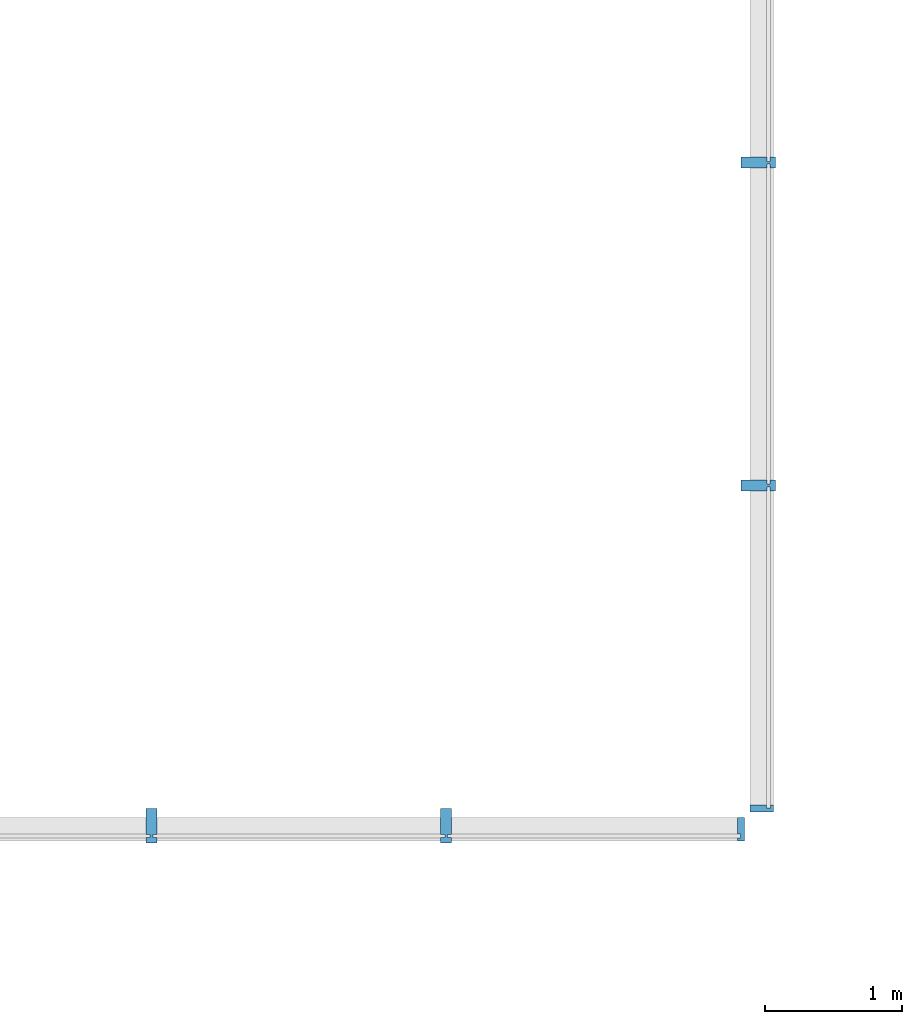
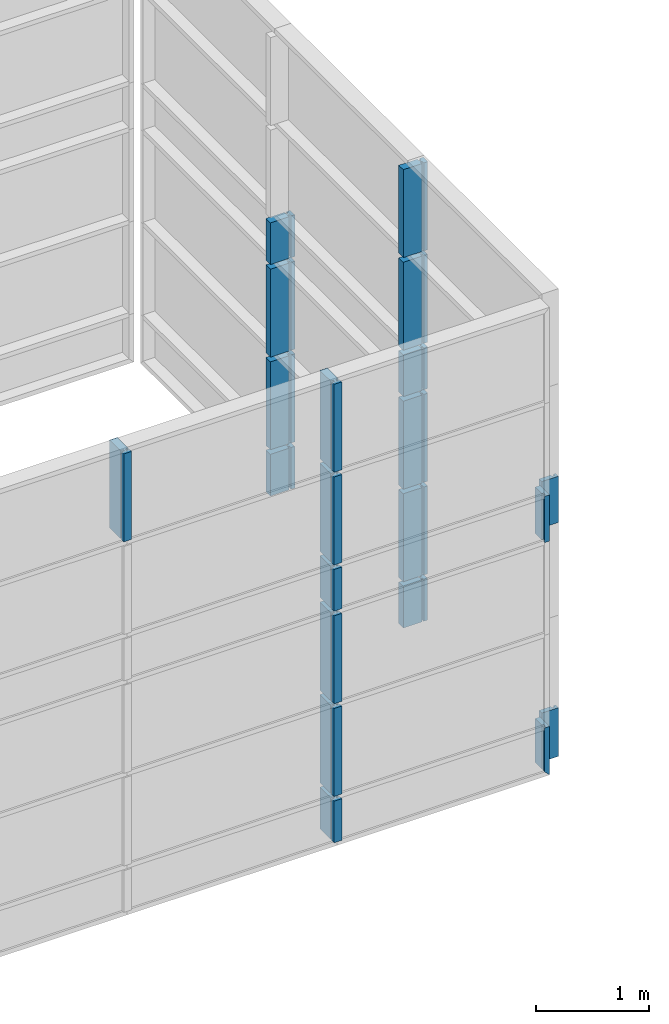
# One storey, part 14 of 19: 21 building element parts, 2 elements without a shape of their own.
"""IFC4 building model written with IfcOpenShell, lengths in millimetres."""

from ifc_helpers import new_model, entity, si_unit, converted_unit, derived_unit, direction, frame, origin_with_axes, place, context, subcontext, project, spatial, triangles, material, element, aggregate, save


model = new_model("IFC4")

# Units and contexts
model_context = context("Model", 3, precision=1e-05, world=origin_with_axes(), true_north=direction((0.0, 1.0)))
body_context = subcontext(model_context, "Body", "Model", "MODEL_VIEW")
ifc_project = project(units=[si_unit("LENGTHUNIT", "METRE", prefix="MILLI"), si_unit("AREAUNIT", "SQUARE_METRE"), si_unit("VOLUMEUNIT", "CUBIC_METRE"), converted_unit("PLANEANGLEUNIT", "DEGREE", entity("IfcLengthMeasure", 0.017453), si_unit("PLANEANGLEUNIT", "RADIAN"), dimensions=[0, 0, 0, 0, 0, 0, 0]), si_unit("SOLIDANGLEUNIT", "STERADIAN"), si_unit("MASSUNIT", "GRAM"), si_unit("TIMEUNIT", "SECOND"), si_unit("THERMODYNAMICTEMPERATUREUNIT", "DEGREE_CELSIUS"), si_unit("LUMINOUSINTENSITYUNIT", "LUMEN"), si_unit("POWERUNIT", "WATT"), derived_unit("THERMALTRANSMITTANCEUNIT", [(si_unit("POWERUNIT", "WATT"), 1), (si_unit("THERMODYNAMICTEMPERATUREUNIT", "KELVIN"), -1), (si_unit("AREAUNIT", "SQUARE_METRE"), -1)])], contexts=[model_context])

# Site, building, storey
site_placement = place(None, origin_with_axes())
site = spatial("IfcSite", under=ifc_project, at=site_placement, Name="Default Site", CompositionType="ELEMENT")
building_placement = place(site_placement, origin_with_axes())
building = spatial("IfcBuilding", under=site, at=building_placement, Name="Default Building", CompositionType="ELEMENT")
storey_placement = place(building_placement, frame((0.0, 0.0, 3000.0), z_axis=(0.0, 0.0, 1.0), x_axis=(1.0, 0.0, 0.0)))
storey = spatial("IfcBuildingStorey", under=building, at=storey_placement, Name="EG - Story", CompositionType="ELEMENT", Elevation=3000.0)

# Curtain wall, building element parts
curtain_wall_1_placement = place(storey_placement, origin_with_axes())
curtain_wall_1 = element("IfcCurtainWall", 1, at=curtain_wall_1_placement, inside=storey, Name="Fassade-008", PredefinedType="NOTDEFINED")
ifc_material = material(Name="Blech")
building_element_part_1_placement = place(curtain_wall_1_placement, frame((76219.438321, -43896.324358, 0.0), z_axis=(0.0, 0.0, 1.0), x_axis=(1.0, 0.0, 0.0)))
building_element_part_1 = element("IfcBuildingElementPart", 2, at=building_element_part_1_placement, material=ifc_material, Name="Blech", PredefinedType="NOTDEFINED", context=body_context, shape_type="Tessellation", body=[
    triangles([(50.0, -1215.324, 475.0), (10.0, -1215.324, 475.0), (50.0, -1135.324, 475.0), (10.0, -1185.324, 475.0), (10.0, -1165.324, 475.0), (-9.999, -1185.324, 475.0), (-9.999, -1165.324, 475.0), (-9.999, -1135.324, 475.0), (-9.999, -1215.324, 475.0), (-199.999, -1215.324, 475.0), (-199.999, -1135.324, 475.0), (10.0, -1135.324, 475.0), (-9.999, -1185.324, 25.0), (10.0, -1185.324, 25.0), (10.0, -1215.324, 25.0), (50.0, -1215.324, 25.0), (50.0, -1135.324, 25.0), (10.0, -1135.324, 25.0), (10.0, -1165.324, 25.0), (-9.999, -1165.324, 25.0), (-9.999, -1135.324, 25.0), (-199.999, -1135.324, 25.0), (-199.999, -1215.324, 25.0), (-9.999, -1215.324, 25.0)], [[1, 2, 3], [3, 2, 4], [3, 4, 5], [5, 4, 6], [5, 6, 7], [8, 9, 10], [8, 10, 11], [3, 5, 12], [6, 13, 14], [6, 14, 4], [4, 14, 15], [4, 15, 2], [15, 16, 1], [15, 1, 2], [3, 1, 16], [3, 16, 17], [18, 12, 3], [18, 3, 17], [12, 18, 19], [12, 19, 5], [7, 5, 19], [7, 19, 20], [8, 7, 20], [8, 20, 21], [8, 21, 22], [8, 22, 11], [10, 11, 22], [10, 22, 23], [9, 10, 23], [9, 23, 24], [9, 24, 13], [9, 13, 6], [17, 18, 16], [16, 18, 19], [16, 19, 14], [14, 19, 20], [14, 20, 13], [24, 21, 22], [24, 22, 23], [16, 14, 15]], closed=False),
])
building_element_part_2_placement = place(curtain_wall_1_placement, frame((76219.438321, -43896.324358, 0.0), z_axis=(0.0, 0.0, 1.0), x_axis=(1.0, 0.0, 0.0)))
building_element_part_2 = element("IfcBuildingElementPart", 3, at=building_element_part_2_placement, material=ifc_material, Name="Blech", PredefinedType="NOTDEFINED", context=body_context, shape_type="Tessellation", body=[
    triangles([(35.0, -5901.623, 500.0), (35.0, -5851.623, 500.0), (15.0, -5851.623, 500.0), (15.0, -5871.623, 500.0), (-14.999, -5871.623, 500.0), (-132.999, -5851.623, 500.0), (-132.999, -5901.623, 500.0), (-14.999, -5851.623, 500.0), (-14.999, -5871.623, 5.0), (-14.999, -5851.623, 25.0), (-132.999, -5851.623, 25.0), (-132.999, -5901.623, -24.999), (35.0, -5901.623, -24.999), (35.0, -5851.623, 25.0), (15.0, -5851.623, 25.0), (15.0, -5871.623, 5.0)], [[1, 2, 3], [1, 3, 4], [1, 4, 5], [1, 5, 6], [1, 6, 7], [8, 6, 5], [5, 9, 10], [5, 10, 8], [10, 11, 6], [10, 6, 8], [6, 11, 12], [6, 12, 7], [7, 12, 13], [7, 13, 1], [1, 13, 14], [1, 14, 2], [3, 2, 14], [3, 14, 15], [15, 16, 4], [15, 4, 3], [4, 16, 9], [4, 9, 5], [16, 9, 12], [16, 12, 13], [16, 13, 14], [16, 14, 15], [11, 12, 9], [11, 9, 10]], closed=False),
])
building_element_part_3_placement = place(curtain_wall_1_placement, frame((76219.438321, -43896.324358, 0.0), z_axis=(0.0, 0.0, 1.0), x_axis=(1.0, 0.0, 0.0)))
building_element_part_3 = element("IfcBuildingElementPart", 4, at=building_element_part_3_placement, material=ifc_material, Name="Blech", PredefinedType="NOTDEFINED", context=body_context, shape_type="Tessellation", body=[
    triangles([(50.0, -3565.973, 475.0), (10.0, -3565.973, 475.0), (50.0, -3485.973, 475.0), (10.0, -3535.973, 475.0), (10.0, -3515.973, 475.0), (-9.999, -3535.973, 475.0), (-9.999, -3515.973, 475.0), (-9.999, -3485.973, 475.0), (-9.999, -3565.973, 475.0), (-199.999, -3565.973, 475.0), (-199.999, -3485.973, 475.0), (10.0, -3485.973, 475.0), (-9.999, -3535.973, 25.0), (10.0, -3535.973, 25.0), (10.0, -3565.973, 25.0), (50.0, -3565.973, 25.0), (50.0, -3485.973, 25.0), (10.0, -3485.973, 25.0), (10.0, -3515.973, 25.0), (-9.999, -3515.973, 25.0), (-9.999, -3485.973, 25.0), (-199.999, -3485.973, 25.0), (-199.999, -3565.973, 25.0), (-9.999, -3565.973, 25.0)], [[1, 2, 3], [3, 2, 4], [3, 4, 5], [5, 4, 6], [5, 6, 7], [8, 9, 10], [8, 10, 11], [3, 5, 12], [6, 13, 14], [6, 14, 4], [4, 14, 15], [4, 15, 2], [15, 16, 1], [15, 1, 2], [3, 1, 16], [3, 16, 17], [18, 12, 3], [18, 3, 17], [12, 18, 19], [12, 19, 5], [7, 5, 19], [7, 19, 20], [8, 7, 20], [8, 20, 21], [8, 21, 22], [8, 22, 11], [10, 11, 22], [10, 22, 23], [9, 10, 23], [9, 23, 24], [9, 24, 13], [9, 13, 6], [17, 18, 16], [16, 18, 19], [16, 19, 14], [14, 19, 20], [14, 20, 13], [24, 21, 22], [24, 22, 23], [16, 14, 15]], closed=False),
])
building_element_part_4_placement = place(curtain_wall_1_placement, frame((76219.438321, -43896.324358, 0.0), z_axis=(0.0, 0.0, 1.0), x_axis=(1.0, 0.0, 0.0)))
building_element_part_4 = element("IfcBuildingElementPart", 5, at=building_element_part_4_placement, material=ifc_material, Name="Blech", PredefinedType="NOTDEFINED", context=body_context, shape_type="Tessellation", body=[
    triangles([(50.0, -1215.324, 1475.0), (10.0, -1215.324, 1475.0), (50.0, -1135.324, 1475.0), (10.0, -1185.324, 1475.0), (10.0, -1165.324, 1475.0), (-9.999, -1185.324, 1475.0), (-9.999, -1165.324, 1475.0), (-9.999, -1135.324, 1475.0), (-9.999, -1215.324, 1475.0), (-199.999, -1215.324, 1475.0), (-199.999, -1135.324, 1475.0), (10.0, -1135.324, 1475.0), (-9.999, -1185.324, 525.0), (10.0, -1185.324, 525.0), (10.0, -1215.324, 525.0), (50.0, -1215.324, 525.0), (50.0, -1135.324, 525.0), (10.0, -1135.324, 525.0), (10.0, -1165.324, 525.0), (-9.999, -1165.324, 525.0), (-9.999, -1135.324, 525.0), (-199.999, -1135.324, 525.0), (-199.999, -1215.324, 525.0), (-9.999, -1215.324, 525.0)], [[1, 2, 3], [3, 2, 4], [3, 4, 5], [5, 4, 6], [5, 6, 7], [8, 9, 10], [8, 10, 11], [3, 5, 12], [6, 13, 14], [6, 14, 4], [4, 14, 15], [4, 15, 2], [15, 16, 1], [15, 1, 2], [3, 1, 16], [3, 16, 17], [18, 12, 3], [18, 3, 17], [12, 18, 19], [12, 19, 5], [7, 5, 19], [7, 19, 20], [8, 7, 20], [8, 20, 21], [8, 21, 22], [8, 22, 11], [10, 11, 22], [10, 22, 23], [9, 10, 23], [9, 23, 24], [9, 24, 13], [9, 13, 6], [17, 18, 16], [16, 18, 19], [16, 19, 14], [14, 19, 20], [14, 20, 13], [24, 21, 22], [24, 22, 23], [16, 14, 15]], closed=False),
])
building_element_part_5_placement = place(curtain_wall_1_placement, frame((76219.438321, -43896.324358, 0.0), z_axis=(0.0, 0.0, 1.0), x_axis=(1.0, 0.0, 0.0)))
building_element_part_5 = element("IfcBuildingElementPart", 6, at=building_element_part_5_placement, material=ifc_material, Name="Blech", PredefinedType="NOTDEFINED", context=body_context, shape_type="Tessellation", body=[
    triangles([(50.0, -3565.973, 1475.0), (10.0, -3565.973, 1475.0), (50.0, -3485.973, 1475.0), (10.0, -3535.973, 1475.0), (10.0, -3515.973, 1475.0), (-9.999, -3535.973, 1475.0), (-9.999, -3515.973, 1475.0), (-9.999, -3485.973, 1475.0), (-9.999, -3565.973, 1475.0), (-199.999, -3565.973, 1475.0), (-199.999, -3485.973, 1475.0), (10.0, -3485.973, 1475.0), (-9.999, -3535.973, 525.0), (10.0, -3535.973, 525.0), (10.0, -3565.973, 525.0), (50.0, -3565.973, 525.0), (50.0, -3485.973, 525.0), (10.0, -3485.973, 525.0), (10.0, -3515.973, 525.0), (-9.999, -3515.973, 525.0), (-9.999, -3485.973, 525.0), (-199.999, -3485.973, 525.0), (-199.999, -3565.973, 525.0), (-9.999, -3565.973, 525.0)], [[1, 2, 3], [3, 2, 4], [3, 4, 5], [5, 4, 6], [5, 6, 7], [8, 9, 10], [8, 10, 11], [3, 5, 12], [6, 13, 14], [6, 14, 4], [4, 14, 15], [4, 15, 2], [15, 16, 1], [15, 1, 2], [3, 1, 16], [3, 16, 17], [18, 12, 3], [18, 3, 17], [12, 18, 19], [12, 19, 5], [7, 5, 19], [7, 19, 20], [8, 7, 20], [8, 20, 21], [8, 21, 22], [8, 22, 11], [10, 11, 22], [10, 22, 23], [9, 10, 23], [9, 23, 24], [9, 24, 13], [9, 13, 6], [17, 18, 16], [16, 18, 19], [16, 19, 14], [14, 19, 20], [14, 20, 13], [24, 21, 22], [24, 22, 23], [16, 14, 15]], closed=False),
])
building_element_part_6_placement = place(curtain_wall_1_placement, frame((76219.438321, -43896.324358, 0.0), z_axis=(0.0, 0.0, 1.0), x_axis=(1.0, 0.0, 0.0)))
building_element_part_6 = element("IfcBuildingElementPart", 7, at=building_element_part_6_placement, material=ifc_material, Name="Blech", PredefinedType="NOTDEFINED", context=body_context, shape_type="Tessellation", body=[
    triangles([(50.0, -1215.324, 2475.0), (10.0, -1215.324, 2475.0), (50.0, -1135.324, 2475.0), (10.0, -1185.324, 2475.0), (10.0, -1165.324, 2475.0), (-9.999, -1185.324, 2475.0), (-9.999, -1165.324, 2475.0), (-9.999, -1135.324, 2475.0), (-9.999, -1215.324, 2475.0), (-199.999, -1215.324, 2475.0), (-199.999, -1135.324, 2475.0), (10.0, -1135.324, 2475.0), (-9.999, -1185.324, 1525.0), (10.0, -1185.324, 1525.0), (10.0, -1215.324, 1525.0), (50.0, -1215.324, 1525.0), (50.0, -1135.324, 1525.0), (10.0, -1135.324, 1525.0), (10.0, -1165.324, 1525.0), (-9.999, -1165.324, 1525.0), (-9.999, -1135.324, 1525.0), (-199.999, -1135.324, 1525.0), (-199.999, -1215.324, 1525.0), (-9.999, -1215.324, 1525.0)], [[1, 2, 3], [3, 2, 4], [3, 4, 5], [5, 4, 6], [5, 6, 7], [8, 9, 10], [8, 10, 11], [3, 5, 12], [6, 13, 14], [6, 14, 4], [4, 14, 15], [4, 15, 2], [15, 16, 1], [15, 1, 2], [3, 1, 16], [3, 16, 17], [18, 12, 3], [18, 3, 17], [12, 18, 19], [12, 19, 5], [7, 5, 19], [7, 19, 20], [8, 7, 20], [8, 20, 21], [8, 21, 22], [8, 22, 11], [10, 11, 22], [10, 22, 23], [9, 10, 23], [9, 23, 24], [9, 24, 13], [9, 13, 6], [17, 18, 16], [16, 18, 19], [16, 19, 14], [14, 19, 20], [14, 20, 13], [24, 21, 22], [24, 22, 23], [16, 14, 15]], closed=False),
])
building_element_part_7_placement = place(curtain_wall_1_placement, frame((76219.438321, -43896.324358, 0.0), z_axis=(0.0, 0.0, 1.0), x_axis=(1.0, 0.0, 0.0)))
building_element_part_7 = element("IfcBuildingElementPart", 8, at=building_element_part_7_placement, material=ifc_material, Name="Blech", PredefinedType="NOTDEFINED", context=body_context, shape_type="Tessellation", body=[
    triangles([(50.0, -3565.973, 2475.0), (10.0, -3565.973, 2475.0), (50.0, -3485.973, 2475.0), (10.0, -3535.973, 2475.0), (10.0, -3515.973, 2475.0), (-9.999, -3535.973, 2475.0), (-9.999, -3515.973, 2475.0), (-9.999, -3485.973, 2475.0), (-9.999, -3565.973, 2475.0), (-199.999, -3565.973, 2475.0), (-199.999, -3485.973, 2475.0), (10.0, -3485.973, 2475.0), (-9.999, -3535.973, 1525.0), (10.0, -3535.973, 1525.0), (10.0, -3565.973, 1525.0), (50.0, -3565.973, 1525.0), (50.0, -3485.973, 1525.0), (10.0, -3485.973, 1525.0), (10.0, -3515.973, 1525.0), (-9.999, -3515.973, 1525.0), (-9.999, -3485.973, 1525.0), (-199.999, -3485.973, 1525.0), (-199.999, -3565.973, 1525.0), (-9.999, -3565.973, 1525.0)], [[1, 2, 3], [3, 2, 4], [3, 4, 5], [5, 4, 6], [5, 6, 7], [8, 9, 10], [8, 10, 11], [3, 5, 12], [6, 13, 14], [6, 14, 4], [4, 14, 15], [4, 15, 2], [15, 16, 1], [15, 1, 2], [3, 1, 16], [3, 16, 17], [18, 12, 3], [18, 3, 17], [12, 18, 19], [12, 19, 5], [7, 5, 19], [7, 19, 20], [8, 7, 20], [8, 20, 21], [8, 21, 22], [8, 22, 11], [10, 11, 22], [10, 22, 23], [9, 10, 23], [9, 23, 24], [9, 24, 13], [9, 13, 6], [17, 18, 16], [16, 18, 19], [16, 19, 14], [14, 19, 20], [14, 20, 13], [24, 21, 22], [24, 22, 23], [16, 14, 15]], closed=False),
])
building_element_part_8_placement = place(curtain_wall_1_placement, frame((76219.438321, -43896.324358, 0.0), z_axis=(0.0, 0.0, 1.0), x_axis=(1.0, 0.0, 0.0)))
building_element_part_8 = element("IfcBuildingElementPart", 9, at=building_element_part_8_placement, material=ifc_material, Name="Blech", PredefinedType="NOTDEFINED", context=body_context, shape_type="Tessellation", body=[
    triangles([(50.0, -1215.324, 2975.0), (10.0, -1215.324, 2975.0), (50.0, -1135.324, 2975.0), (10.0, -1185.324, 2975.0), (10.0, -1165.324, 2975.0), (-9.999, -1185.324, 2975.0), (-9.999, -1165.324, 2975.0), (-9.999, -1135.324, 2975.0), (-9.999, -1215.324, 2975.0), (-199.999, -1215.324, 2975.0), (-199.999, -1135.324, 2975.0), (10.0, -1135.324, 2975.0), (-9.999, -1185.324, 2525.0), (10.0, -1185.324, 2525.0), (10.0, -1215.324, 2525.0), (50.0, -1215.324, 2525.0), (50.0, -1135.324, 2525.0), (10.0, -1135.324, 2525.0), (10.0, -1165.324, 2525.0), (-9.999, -1165.324, 2525.0), (-9.999, -1135.324, 2525.0), (-199.999, -1135.324, 2525.0), (-199.999, -1215.324, 2525.0), (-9.999, -1215.324, 2525.0)], [[1, 2, 3], [3, 2, 4], [3, 4, 5], [5, 4, 6], [5, 6, 7], [8, 9, 10], [8, 10, 11], [3, 5, 12], [6, 13, 14], [6, 14, 4], [4, 14, 15], [4, 15, 2], [15, 16, 1], [15, 1, 2], [3, 1, 16], [3, 16, 17], [18, 12, 3], [18, 3, 17], [12, 18, 19], [12, 19, 5], [7, 5, 19], [7, 19, 20], [8, 7, 20], [8, 20, 21], [8, 21, 22], [8, 22, 11], [10, 11, 22], [10, 22, 23], [9, 10, 23], [9, 23, 24], [9, 24, 13], [9, 13, 6], [17, 18, 16], [16, 18, 19], [16, 19, 14], [14, 19, 20], [14, 20, 13], [24, 21, 22], [24, 22, 23], [16, 14, 15]], closed=False),
])
building_element_part_9_placement = place(curtain_wall_1_placement, frame((76219.438321, -43896.324358, 0.0), z_axis=(0.0, 0.0, 1.0), x_axis=(1.0, 0.0, 0.0)))
building_element_part_9 = element("IfcBuildingElementPart", 10, at=building_element_part_9_placement, material=ifc_material, Name="Blech", PredefinedType="NOTDEFINED", context=body_context, shape_type="Tessellation", body=[
    triangles([(50.0, -3565.973, 2975.0), (10.0, -3565.973, 2975.0), (50.0, -3485.973, 2975.0), (10.0, -3535.973, 2975.0), (10.0, -3515.973, 2975.0), (-9.999, -3535.973, 2975.0), (-9.999, -3515.973, 2975.0), (-9.999, -3485.973, 2975.0), (-9.999, -3565.973, 2975.0), (-199.999, -3565.973, 2975.0), (-199.999, -3485.973, 2975.0), (10.0, -3485.973, 2975.0), (-9.999, -3535.973, 2525.0), (10.0, -3535.973, 2525.0), (10.0, -3565.973, 2525.0), (50.0, -3565.973, 2525.0), (50.0, -3485.973, 2525.0), (10.0, -3485.973, 2525.0), (10.0, -3515.973, 2525.0), (-9.999, -3515.973, 2525.0), (-9.999, -3485.973, 2525.0), (-199.999, -3485.973, 2525.0), (-199.999, -3565.973, 2525.0), (-9.999, -3565.973, 2525.0)], [[1, 2, 3], [3, 2, 4], [3, 4, 5], [5, 4, 6], [5, 6, 7], [8, 9, 10], [8, 10, 11], [3, 5, 12], [6, 13, 14], [6, 14, 4], [4, 14, 15], [4, 15, 2], [15, 16, 1], [15, 1, 2], [3, 1, 16], [3, 16, 17], [18, 12, 3], [18, 3, 17], [12, 18, 19], [12, 19, 5], [7, 5, 19], [7, 19, 20], [8, 7, 20], [8, 20, 21], [8, 21, 22], [8, 22, 11], [10, 11, 22], [10, 22, 23], [9, 10, 23], [9, 23, 24], [9, 24, 13], [9, 13, 6], [17, 18, 16], [16, 18, 19], [16, 19, 14], [14, 19, 20], [14, 20, 13], [24, 21, 22], [24, 22, 23], [16, 14, 15]], closed=False),
])
building_element_part_10_placement = place(curtain_wall_1_placement, frame((76219.438321, -43896.324358, 0.0), z_axis=(0.0, 0.0, 1.0), x_axis=(1.0, 0.0, 0.0)))
building_element_part_10 = element("IfcBuildingElementPart", 11, at=building_element_part_10_placement, material=ifc_material, Name="Blech", PredefinedType="NOTDEFINED", context=body_context, shape_type="Tessellation", body=[
    triangles([(50.0, -3565.973, 3975.0), (10.0, -3565.973, 3975.0), (50.0, -3485.973, 3975.0), (10.0, -3535.973, 3975.0), (10.0, -3515.973, 3975.0), (-9.999, -3535.973, 3975.0), (-9.999, -3515.973, 3975.0), (-9.999, -3485.973, 3975.0), (-9.999, -3565.973, 3975.0), (-199.999, -3565.973, 3975.0), (-199.999, -3485.973, 3975.0), (10.0, -3485.973, 3975.0), (-9.999, -3535.973, 3025.0), (10.0, -3535.973, 3025.0), (10.0, -3565.973, 3025.0), (50.0, -3565.973, 3025.0), (50.0, -3485.973, 3025.0), (10.0, -3485.973, 3025.0), (10.0, -3515.973, 3025.0), (-9.999, -3515.973, 3025.0), (-9.999, -3485.973, 3025.0), (-199.999, -3485.973, 3025.0), (-199.999, -3565.973, 3025.0), (-9.999, -3565.973, 3025.0)], [[1, 2, 3], [3, 2, 4], [3, 4, 5], [5, 4, 6], [5, 6, 7], [8, 9, 10], [8, 10, 11], [3, 5, 12], [6, 13, 14], [6, 14, 4], [4, 14, 15], [4, 15, 2], [15, 16, 1], [15, 1, 2], [3, 1, 16], [3, 16, 17], [18, 12, 3], [18, 3, 17], [12, 18, 19], [12, 19, 5], [7, 5, 19], [7, 19, 20], [8, 7, 20], [8, 20, 21], [8, 21, 22], [8, 22, 11], [10, 11, 22], [10, 22, 23], [9, 10, 23], [9, 23, 24], [9, 24, 13], [9, 13, 6], [17, 18, 16], [16, 18, 19], [16, 19, 14], [14, 19, 20], [14, 20, 13], [24, 21, 22], [24, 22, 23], [16, 14, 15]], closed=False),
])
building_element_part_11_placement = place(curtain_wall_1_placement, frame((76219.438321, -43896.324358, 0.0), z_axis=(0.0, 0.0, 1.0), x_axis=(1.0, 0.0, 0.0)))
building_element_part_11 = element("IfcBuildingElementPart", 12, at=building_element_part_11_placement, material=ifc_material, Name="Blech", PredefinedType="NOTDEFINED", context=body_context, shape_type="Tessellation", body=[
    triangles([(50.0, -3565.973, 4975.0), (10.0, -3565.973, 4975.0), (50.0, -3485.973, 4975.0), (10.0, -3535.973, 4975.0), (10.0, -3515.973, 4975.0), (-9.999, -3535.973, 4975.0), (-9.999, -3515.973, 4975.0), (-9.999, -3485.973, 4975.0), (-9.999, -3565.973, 4975.0), (-199.999, -3565.973, 4975.0), (-199.999, -3485.973, 4975.0), (10.0, -3485.973, 4975.0), (-9.999, -3535.973, 4025.0), (10.0, -3535.973, 4025.0), (10.0, -3565.973, 4025.0), (50.0, -3565.973, 4025.0), (50.0, -3485.973, 4025.0), (10.0, -3485.973, 4025.0), (10.0, -3515.973, 4025.0), (-9.999, -3515.973, 4025.0), (-9.999, -3485.973, 4025.0), (-199.999, -3485.973, 4025.0), (-199.999, -3565.973, 4025.0), (-9.999, -3565.973, 4025.0)], [[1, 2, 3], [3, 2, 4], [3, 4, 5], [5, 4, 6], [5, 6, 7], [8, 9, 10], [8, 10, 11], [3, 5, 12], [6, 13, 14], [6, 14, 4], [4, 14, 15], [4, 15, 2], [15, 16, 1], [15, 1, 2], [3, 1, 16], [3, 16, 17], [18, 12, 3], [18, 3, 17], [12, 18, 19], [12, 19, 5], [7, 5, 19], [7, 19, 20], [8, 7, 20], [8, 20, 21], [8, 21, 22], [8, 22, 11], [10, 11, 22], [10, 22, 23], [9, 10, 23], [9, 23, 24], [9, 24, 13], [9, 13, 6], [17, 18, 16], [16, 18, 19], [16, 19, 14], [14, 19, 20], [14, 20, 13], [24, 21, 22], [24, 22, 23], [16, 14, 15]], closed=False),
])
building_element_part_12_placement = place(curtain_wall_1_placement, frame((76219.438321, -43896.324358, 0.0), z_axis=(0.0, 0.0, 1.0), x_axis=(1.0, 0.0, 0.0)))
building_element_part_12 = element("IfcBuildingElementPart", 13, at=building_element_part_12_placement, material=ifc_material, Name="Blech", PredefinedType="NOTDEFINED", context=body_context, shape_type="Tessellation", body=[
    triangles([(35.0, -5901.623, 3000.0), (35.0, -5851.623, 3000.0), (15.0, -5851.623, 3000.0), (15.0, -5871.623, 3000.0), (-14.999, -5871.623, 3000.0), (-132.999, -5851.623, 3000.0), (-132.999, -5901.623, 3000.0), (-14.999, -5851.623, 3000.0), (-14.999, -5871.623, 2500.0), (-14.999, -5851.623, 2500.0), (-132.999, -5851.623, 2500.0), (-132.999, -5901.623, 2500.0), (35.0, -5901.623, 2500.0), (35.0, -5851.623, 2500.0), (15.0, -5851.623, 2500.0), (15.0, -5871.623, 2500.0)], [[1, 2, 3], [1, 3, 4], [1, 4, 5], [1, 5, 6], [1, 6, 7], [8, 6, 5], [5, 9, 10], [5, 10, 8], [10, 11, 6], [10, 6, 8], [11, 12, 7], [11, 7, 6], [12, 13, 1], [12, 1, 7], [13, 14, 2], [13, 2, 1], [3, 2, 14], [3, 14, 15], [15, 16, 4], [15, 4, 3], [4, 16, 9], [4, 9, 5], [15, 16, 13], [13, 16, 9], [13, 9, 11], [11, 9, 10], [13, 11, 12], [15, 13, 14]], closed=False),
])
aggregate(curtain_wall_1, [building_element_part_1, building_element_part_2, building_element_part_3, building_element_part_4, building_element_part_5, building_element_part_6, building_element_part_7, building_element_part_8, building_element_part_9, building_element_part_10, building_element_part_11, building_element_part_12])

curtain_wall_2_placement = place(storey_placement, origin_with_axes())
curtain_wall_2 = element("IfcCurtainWall", 14, at=curtain_wall_2_placement, inside=storey, Name="Fassade-010", PredefinedType="NOTDEFINED")
building_element_part_13_placement = place(curtain_wall_2_placement, frame((70654.39916, -49972.947966, -4.5e-05), z_axis=(0.0, 0.0, 1.0), x_axis=(1.0, 0.0, 0.0)))
building_element_part_13 = element("IfcBuildingElementPart", 15, at=building_element_part_13_placement, material=ifc_material, Name="Blech", PredefinedType="NOTDEFINED", context=body_context, shape_type="Tessellation", body=[
    triangles([(5360.039, -14.999, 500.0), (5360.039, 15.0, 500.0), (5390.039, 133.0, 500.0), (5390.039, -34.999, 500.0), (5340.039, -34.999, 500.0), (5340.039, -14.999, 500.0), (5340.039, 15.0, 500.0), (5340.039, 133.0, 500.0), (5360.039, 15.0, 5.0), (5360.039, -14.999, 5.0), (5340.039, -14.999, 25.0), (5340.039, -34.999, 25.0), (5390.039, -34.999, -24.999), (5390.039, 133.0, -24.999), (5340.039, 133.0, 25.0), (5340.039, 15.0, 25.0)], [[1, 2, 3], [1, 3, 4], [1, 4, 5], [1, 5, 6], [7, 8, 3], [7, 3, 2], [1, 2, 9], [1, 9, 10], [11, 6, 1], [11, 1, 10], [6, 11, 12], [6, 12, 5], [4, 5, 12], [4, 12, 13], [3, 4, 13], [3, 13, 14], [8, 3, 14], [8, 14, 15], [16, 7, 8], [16, 8, 15], [2, 7, 16], [2, 16, 9], [10, 9, 14], [10, 14, 13], [10, 13, 12], [10, 12, 11], [16, 15, 14], [16, 14, 9]], closed=False),
])
building_element_part_14_placement = place(curtain_wall_2_placement, frame((70654.39916, -49972.947966, -4.5e-05), z_axis=(0.0, 0.0, 1.0), x_axis=(1.0, 0.0, 0.0)))
building_element_part_14 = element("IfcBuildingElementPart", 16, at=building_element_part_14_placement, material=ifc_material, Name="Blech", PredefinedType="NOTDEFINED", context=body_context, shape_type="Tessellation", body=[
    triangles([(3259.023, 10.0, 475.0), (3259.023, 200.0, 475.0), (3229.023, 10.0, 475.0), (3209.023, 10.0, 475.0), (3229.023, -9.999, 475.0), (3259.023, -49.999, 475.0), (3259.023, -9.999, 475.0), (3179.023, 200.0, 475.0), (3179.023, 10.0, 475.0), (3209.023, -9.999, 475.0), (3179.023, -9.999, 475.0), (3179.023, -49.999, 475.0), (3229.023, 10.0, 25.0), (3259.023, 10.0, 25.0), (3259.023, 200.0, 25.0), (3179.023, 200.0, 25.0), (3179.023, 10.0, 25.0), (3209.023, 10.0, 25.0), (3209.023, -9.999, 25.0), (3179.023, -9.999, 25.0), (3179.023, -49.999, 25.0), (3259.023, -49.999, 25.0), (3259.023, -9.999, 25.0), (3229.023, -9.999, 25.0)], [[1, 2, 3], [3, 2, 4], [3, 4, 5], [5, 4, 6], [5, 6, 7], [8, 9, 4], [8, 4, 2], [6, 4, 10], [6, 10, 11], [6, 11, 12], [1, 3, 13], [1, 13, 14], [1, 14, 15], [1, 15, 2], [2, 15, 16], [2, 16, 8], [9, 8, 16], [9, 16, 17], [9, 17, 18], [9, 18, 4], [4, 18, 19], [4, 19, 10], [11, 10, 19], [11, 19, 20], [20, 21, 12], [20, 12, 11], [12, 21, 22], [12, 22, 6], [23, 7, 6], [23, 6, 22], [5, 7, 23], [5, 23, 24], [3, 5, 24], [3, 24, 13], [23, 22, 24], [24, 22, 19], [24, 19, 13], [13, 19, 15], [13, 15, 14], [21, 20, 19], [21, 19, 22], [15, 19, 18], [15, 18, 17], [15, 17, 16]], closed=False),
])
building_element_part_15_placement = place(curtain_wall_2_placement, frame((70654.39916, -49972.947966, -4.5e-05), z_axis=(0.0, 0.0, 1.0), x_axis=(1.0, 0.0, 0.0)))
building_element_part_15 = element("IfcBuildingElementPart", 17, at=building_element_part_15_placement, material=ifc_material, Name="Blech", PredefinedType="NOTDEFINED", context=body_context, shape_type="Tessellation", body=[
    triangles([(3259.023, 10.0, 1475.0), (3259.023, 200.0, 1475.0), (3229.023, 10.0, 1475.0), (3209.023, 10.0, 1475.0), (3229.023, -9.999, 1475.0), (3259.023, -49.999, 1475.0), (3259.023, -9.999, 1475.0), (3179.023, 200.0, 1475.0), (3179.023, 10.0, 1475.0), (3209.023, -9.999, 1475.0), (3179.023, -9.999, 1475.0), (3179.023, -49.999, 1475.0), (3229.023, 10.0, 525.0), (3259.023, 10.0, 525.0), (3259.023, 200.0, 525.0), (3179.023, 200.0, 525.0), (3179.023, 10.0, 525.0), (3209.023, 10.0, 525.0), (3209.023, -9.999, 525.0), (3179.023, -9.999, 525.0), (3179.023, -49.999, 525.0), (3259.023, -49.999, 525.0), (3259.023, -9.999, 525.0), (3229.023, -9.999, 525.0)], [[1, 2, 3], [3, 2, 4], [3, 4, 5], [5, 4, 6], [5, 6, 7], [8, 9, 4], [8, 4, 2], [6, 4, 10], [6, 10, 11], [6, 11, 12], [1, 3, 13], [1, 13, 14], [1, 14, 15], [1, 15, 2], [2, 15, 16], [2, 16, 8], [9, 8, 16], [9, 16, 17], [9, 17, 18], [9, 18, 4], [4, 18, 19], [4, 19, 10], [11, 10, 19], [11, 19, 20], [20, 21, 12], [20, 12, 11], [12, 21, 22], [12, 22, 6], [23, 7, 6], [23, 6, 22], [5, 7, 23], [5, 23, 24], [3, 5, 24], [3, 24, 13], [23, 22, 24], [24, 22, 19], [24, 19, 13], [13, 19, 15], [13, 15, 14], [21, 20, 19], [21, 19, 22], [15, 19, 18], [15, 18, 17], [15, 17, 16]], closed=False),
])
building_element_part_16_placement = place(curtain_wall_2_placement, frame((70654.39916, -49972.947966, -4.5e-05), z_axis=(0.0, 0.0, 1.0), x_axis=(1.0, 0.0, 0.0)))
building_element_part_16 = element("IfcBuildingElementPart", 18, at=building_element_part_16_placement, material=ifc_material, Name="Blech", PredefinedType="NOTDEFINED", context=body_context, shape_type="Tessellation", body=[
    triangles([(3259.023, 10.0, 2475.0), (3259.023, 200.0, 2475.0), (3229.023, 10.0, 2475.0), (3209.023, 10.0, 2475.0), (3229.023, -9.999, 2475.0), (3259.023, -49.999, 2475.0), (3259.023, -9.999, 2475.0), (3179.023, 200.0, 2475.0), (3179.023, 10.0, 2475.0), (3209.023, -9.999, 2475.0), (3179.023, -9.999, 2475.0), (3179.023, -49.999, 2475.0), (3229.023, 10.0, 1525.0), (3259.023, 10.0, 1525.0), (3259.023, 200.0, 1525.0), (3179.023, 200.0, 1525.0), (3179.023, 10.0, 1525.0), (3209.023, 10.0, 1525.0), (3209.023, -9.999, 1525.0), (3179.023, -9.999, 1525.0), (3179.023, -49.999, 1525.0), (3259.023, -49.999, 1525.0), (3259.023, -9.999, 1525.0), (3229.023, -9.999, 1525.0)], [[1, 2, 3], [3, 2, 4], [3, 4, 5], [5, 4, 6], [5, 6, 7], [8, 9, 4], [8, 4, 2], [6, 4, 10], [6, 10, 11], [6, 11, 12], [1, 3, 13], [1, 13, 14], [1, 14, 15], [1, 15, 2], [2, 15, 16], [2, 16, 8], [9, 8, 16], [9, 16, 17], [9, 17, 18], [9, 18, 4], [4, 18, 19], [4, 19, 10], [11, 10, 19], [11, 19, 20], [20, 21, 12], [20, 12, 11], [12, 21, 22], [12, 22, 6], [23, 7, 6], [23, 6, 22], [5, 7, 23], [5, 23, 24], [3, 5, 24], [3, 24, 13], [23, 22, 24], [24, 22, 19], [24, 19, 13], [13, 19, 15], [13, 15, 14], [21, 20, 19], [21, 19, 22], [15, 19, 18], [15, 18, 17], [15, 17, 16]], closed=False),
])
building_element_part_17_placement = place(curtain_wall_2_placement, frame((70654.39916, -49972.947966, -4.5e-05), z_axis=(0.0, 0.0, 1.0), x_axis=(1.0, 0.0, 0.0)))
building_element_part_17 = element("IfcBuildingElementPart", 19, at=building_element_part_17_placement, material=ifc_material, Name="Blech", PredefinedType="NOTDEFINED", context=body_context, shape_type="Tessellation", body=[
    triangles([(5360.039, -14.999, 3000.0), (5360.039, 15.0, 3000.0), (5390.039, 133.0, 3000.0), (5390.039, -34.999, 3000.0), (5340.039, -34.999, 3000.0), (5340.039, -14.999, 3000.0), (5340.039, 15.0, 3000.0), (5340.039, 133.0, 3000.0), (5360.039, 15.0, 2500.0), (5360.039, -14.999, 2500.0), (5340.039, -14.999, 2500.0), (5340.039, -34.999, 2500.0), (5390.039, -34.999, 2500.0), (5390.039, 133.0, 2500.0), (5340.039, 133.0, 2500.0), (5340.039, 15.0, 2500.0)], [[1, 2, 3], [1, 3, 4], [1, 4, 5], [1, 5, 6], [7, 8, 3], [7, 3, 2], [1, 2, 9], [1, 9, 10], [11, 6, 1], [11, 1, 10], [6, 11, 12], [6, 12, 5], [13, 4, 5], [13, 5, 12], [14, 3, 4], [14, 4, 13], [15, 8, 3], [15, 3, 14], [16, 7, 8], [16, 8, 15], [2, 7, 16], [2, 16, 9], [10, 9, 14], [10, 14, 13], [10, 13, 12], [10, 12, 11], [16, 15, 14], [16, 14, 9]], closed=False),
])
building_element_part_18_placement = place(curtain_wall_2_placement, frame((70654.39916, -49972.947966, -4.5e-05), z_axis=(0.0, 0.0, 1.0), x_axis=(1.0, 0.0, 0.0)))
building_element_part_18 = element("IfcBuildingElementPart", 20, at=building_element_part_18_placement, material=ifc_material, Name="Blech", PredefinedType="NOTDEFINED", context=body_context, shape_type="Tessellation", body=[
    triangles([(3259.023, 10.0, 2975.0), (3259.023, 200.0, 2975.0), (3229.023, 10.0, 2975.0), (3209.023, 10.0, 2975.0), (3229.023, -9.999, 2975.0), (3259.023, -49.999, 2975.0), (3259.023, -9.999, 2975.0), (3179.023, 200.0, 2975.0), (3179.023, 10.0, 2975.0), (3209.023, -9.999, 2975.0), (3179.023, -9.999, 2975.0), (3179.023, -49.999, 2975.0), (3229.023, 10.0, 2525.0), (3259.023, 10.0, 2525.0), (3259.023, 200.0, 2525.0), (3179.023, 200.0, 2525.0), (3179.023, 10.0, 2525.0), (3209.023, 10.0, 2525.0), (3209.023, -9.999, 2525.0), (3179.023, -9.999, 2525.0), (3179.023, -49.999, 2525.0), (3259.023, -49.999, 2525.0), (3259.023, -9.999, 2525.0), (3229.023, -9.999, 2525.0)], [[1, 2, 3], [3, 2, 4], [3, 4, 5], [5, 4, 6], [5, 6, 7], [8, 9, 4], [8, 4, 2], [6, 4, 10], [6, 10, 11], [6, 11, 12], [1, 3, 13], [1, 13, 14], [1, 14, 15], [1, 15, 2], [2, 15, 16], [2, 16, 8], [9, 8, 16], [9, 16, 17], [9, 17, 18], [9, 18, 4], [4, 18, 19], [4, 19, 10], [11, 10, 19], [11, 19, 20], [20, 21, 12], [20, 12, 11], [12, 21, 22], [12, 22, 6], [23, 7, 6], [23, 6, 22], [5, 7, 23], [5, 23, 24], [3, 5, 24], [3, 24, 13], [23, 22, 24], [24, 22, 19], [24, 19, 13], [13, 19, 15], [13, 15, 14], [21, 20, 19], [21, 19, 22], [15, 19, 18], [15, 18, 17], [15, 17, 16]], closed=False),
])
building_element_part_19_placement = place(curtain_wall_2_placement, frame((70654.39916, -49972.947966, -4.5e-05), z_axis=(0.0, 0.0, 1.0), x_axis=(1.0, 0.0, 0.0)))
building_element_part_19 = element("IfcBuildingElementPart", 21, at=building_element_part_19_placement, material=ifc_material, Name="Blech", PredefinedType="NOTDEFINED", context=body_context, shape_type="Tessellation", body=[
    triangles([(3259.023, 10.0, 3975.0), (3259.023, 200.0, 3975.0), (3229.023, 10.0, 3975.0), (3209.023, 10.0, 3975.0), (3229.023, -9.999, 3975.0), (3259.023, -49.999, 3975.0), (3259.023, -9.999, 3975.0), (3179.023, 200.0, 3975.0), (3179.023, 10.0, 3975.0), (3209.023, -9.999, 3975.0), (3179.023, -9.999, 3975.0), (3179.023, -49.999, 3975.0), (3229.023, 10.0, 3025.0), (3259.023, 10.0, 3025.0), (3259.023, 200.0, 3025.0), (3179.023, 200.0, 3025.0), (3179.023, 10.0, 3025.0), (3209.023, 10.0, 3025.0), (3209.023, -9.999, 3025.0), (3179.023, -9.999, 3025.0), (3179.023, -49.999, 3025.0), (3259.023, -49.999, 3025.0), (3259.023, -9.999, 3025.0), (3229.023, -9.999, 3025.0)], [[1, 2, 3], [3, 2, 4], [3, 4, 5], [5, 4, 6], [5, 6, 7], [8, 9, 4], [8, 4, 2], [6, 4, 10], [6, 10, 11], [6, 11, 12], [1, 3, 13], [1, 13, 14], [1, 14, 15], [1, 15, 2], [2, 15, 16], [2, 16, 8], [9, 8, 16], [9, 16, 17], [9, 17, 18], [9, 18, 4], [4, 18, 19], [4, 19, 10], [11, 10, 19], [11, 19, 20], [20, 21, 12], [20, 12, 11], [12, 21, 22], [12, 22, 6], [23, 7, 6], [23, 6, 22], [5, 7, 23], [5, 23, 24], [3, 5, 24], [3, 24, 13], [23, 22, 24], [24, 22, 19], [24, 19, 13], [13, 19, 15], [13, 15, 14], [21, 20, 19], [21, 19, 22], [15, 19, 18], [15, 18, 17], [15, 17, 16]], closed=False),
])
building_element_part_20_placement = place(curtain_wall_2_placement, frame((70654.39916, -49972.947966, -4.5e-05), z_axis=(0.0, 0.0, 1.0), x_axis=(1.0, 0.0, 0.0)))
building_element_part_20 = element("IfcBuildingElementPart", 22, at=building_element_part_20_placement, material=ifc_material, Name="Blech", PredefinedType="NOTDEFINED", context=body_context, shape_type="Tessellation", body=[
    triangles([(1113.008, 10.0, 4975.0), (1113.008, 200.0, 4975.0), (1083.008, 10.0, 4975.0), (1063.008, 10.0, 4975.0), (1083.008, -9.999, 4975.0), (1113.008, -49.999, 4975.0), (1113.008, -9.999, 4975.0), (1033.008, 200.0, 4975.0), (1033.008, 10.0, 4975.0), (1063.008, -9.999, 4975.0), (1033.008, -9.999, 4975.0), (1033.008, -49.999, 4975.0), (1083.008, 10.0, 4025.0), (1113.008, 10.0, 4025.0), (1113.008, 200.0, 4025.0), (1033.008, 200.0, 4025.0), (1033.008, 10.0, 4025.0), (1063.008, 10.0, 4025.0), (1063.008, -9.999, 4025.0), (1033.008, -9.999, 4025.0), (1033.008, -49.999, 4025.0), (1113.008, -49.999, 4025.0), (1113.008, -9.999, 4025.0), (1083.008, -9.999, 4025.0)], [[1, 2, 3], [3, 2, 4], [3, 4, 5], [5, 4, 6], [5, 6, 7], [8, 9, 4], [8, 4, 2], [6, 4, 10], [6, 10, 11], [6, 11, 12], [1, 3, 13], [1, 13, 14], [1, 14, 15], [1, 15, 2], [2, 15, 16], [2, 16, 8], [9, 8, 16], [9, 16, 17], [9, 17, 18], [9, 18, 4], [4, 18, 19], [4, 19, 10], [11, 10, 19], [11, 19, 20], [20, 21, 12], [20, 12, 11], [12, 21, 22], [12, 22, 6], [23, 7, 6], [23, 6, 22], [5, 7, 23], [5, 23, 24], [3, 5, 24], [3, 24, 13], [23, 22, 24], [24, 22, 19], [24, 19, 13], [13, 19, 15], [13, 15, 14], [21, 20, 19], [21, 19, 22], [15, 19, 18], [15, 18, 17], [15, 17, 16]], closed=False),
])
building_element_part_21_placement = place(curtain_wall_2_placement, frame((70654.39916, -49972.947966, -4.5e-05), z_axis=(0.0, 0.0, 1.0), x_axis=(1.0, 0.0, 0.0)))
building_element_part_21 = element("IfcBuildingElementPart", 23, at=building_element_part_21_placement, material=ifc_material, Name="Blech", PredefinedType="NOTDEFINED", context=body_context, shape_type="Tessellation", body=[
    triangles([(3259.023, 10.0, 4975.0), (3259.023, 200.0, 4975.0), (3229.023, 10.0, 4975.0), (3209.023, 10.0, 4975.0), (3229.023, -9.999, 4975.0), (3259.023, -49.999, 4975.0), (3259.023, -9.999, 4975.0), (3179.023, 200.0, 4975.0), (3179.023, 10.0, 4975.0), (3209.023, -9.999, 4975.0), (3179.023, -9.999, 4975.0), (3179.023, -49.999, 4975.0), (3229.023, 10.0, 4025.0), (3259.023, 10.0, 4025.0), (3259.023, 200.0, 4025.0), (3179.023, 200.0, 4025.0), (3179.023, 10.0, 4025.0), (3209.023, 10.0, 4025.0), (3209.023, -9.999, 4025.0), (3179.023, -9.999, 4025.0), (3179.023, -49.999, 4025.0), (3259.023, -49.999, 4025.0), (3259.023, -9.999, 4025.0), (3229.023, -9.999, 4025.0)], [[1, 2, 3], [3, 2, 4], [3, 4, 5], [5, 4, 6], [5, 6, 7], [8, 9, 4], [8, 4, 2], [6, 4, 10], [6, 10, 11], [6, 11, 12], [1, 3, 13], [1, 13, 14], [1, 14, 15], [1, 15, 2], [2, 15, 16], [2, 16, 8], [9, 8, 16], [9, 16, 17], [9, 17, 18], [9, 18, 4], [4, 18, 19], [4, 19, 10], [11, 10, 19], [11, 19, 20], [20, 21, 12], [20, 12, 11], [12, 21, 22], [12, 22, 6], [23, 7, 6], [23, 6, 22], [5, 7, 23], [5, 23, 24], [3, 5, 24], [3, 24, 13], [23, 22, 24], [24, 22, 19], [24, 19, 13], [13, 19, 15], [13, 15, 14], [21, 20, 19], [21, 19, 22], [15, 19, 18], [15, 18, 17], [15, 17, 16]], closed=False),
])
aggregate(curtain_wall_2, [building_element_part_13, building_element_part_14, building_element_part_15, building_element_part_16, building_element_part_17, building_element_part_18, building_element_part_19, building_element_part_20, building_element_part_21])

save(model, "model.ifc")
